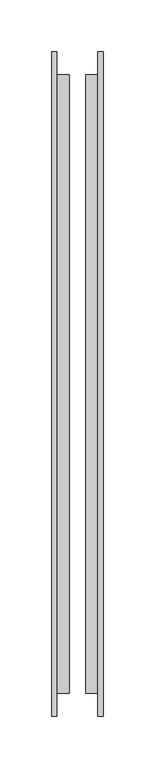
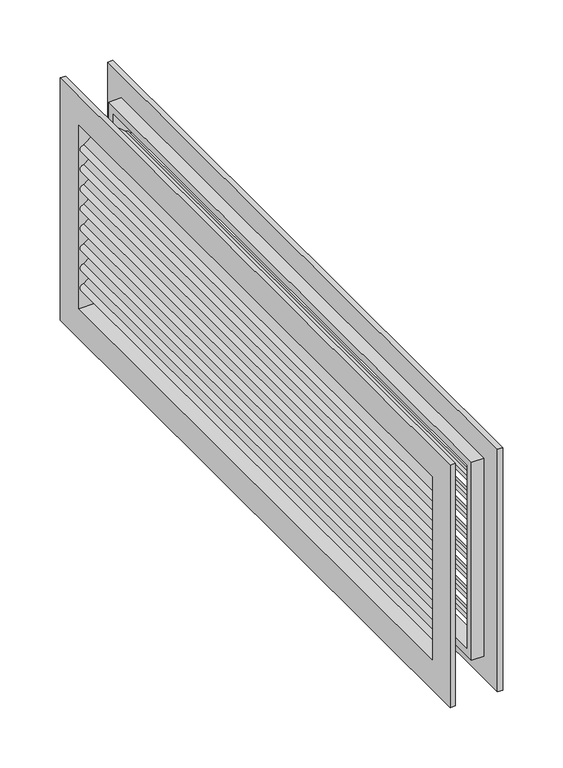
"""IFC4 building model written with IfcOpenShell, lengths in millimetres: air terminal geometry, BL_РешеткаПрямоугольная_Вытяжная_LVK : BL_РешеткаПрямоугольная_Вытяжная_LVK."""

from ifc_helpers import new_model, si_unit, point, frame, frame_2d, origin, place, context, project, spatial, polyline, circle_curve, trimmed, segment, composite_curve, outline, extrude, faceted_brep, source, transform, mapped, element, save


def air_terminal_31dd35a5(model_context):
    return source(origin(), model_context, "Body", "SolidModel", [
        extrude(outline(composite_curve([segment(polyline([(77.6351972, 8.214887), (67.6947461, 16.5054222)]), True, "CONTINUOUS"), segment(trimmed(circle_curve(frame_2d((67.5, 20.0)), 3.5), [point((67.6947461, 16.5054222))], [point((70.9945778, 19.8052539))], False, "CARTESIAN"), True, "CONTINUOUS"), segment(polyline([(70.9945778, 19.8052539), (79.285113, 9.8648028), (77.6351972, 8.214887)]), True, "CONTINUOUS")], self_intersect=False)), frame((0.0, -292.5, 0.0), z_axis=(0.0, 1.0, 0.0), x_axis=(0.0, 0.0, 1.0)), (0.0, 0.0, 1.0), 585.0),
        extrude(outline(composite_curve([segment(polyline([(57.6351972, 8.214887), (47.6947461, 16.5054222)]), True, "CONTINUOUS"), segment(trimmed(circle_curve(frame_2d((47.5, 20.0)), 3.5), [point((47.6947461, 16.5054222))], [point((50.9945778, 19.8052539))], False, "CARTESIAN"), True, "CONTINUOUS"), segment(polyline([(50.9945778, 19.8052539), (59.285113, 9.8648028), (57.6351972, 8.214887)]), True, "CONTINUOUS")], self_intersect=False)), frame((0.0, -292.5, 0.0), z_axis=(0.0, 1.0, 0.0), x_axis=(0.0, 0.0, 1.0)), (0.0, 0.0, 1.0), 585.0),
        extrude(outline(composite_curve([segment(polyline([(37.6351972, 8.214887), (27.6947461, 16.5054222)]), True, "CONTINUOUS"), segment(trimmed(circle_curve(frame_2d((27.5, 20.0)), 3.5), [point((27.6947461, 16.5054222))], [point((30.9945778, 19.8052539))], False, "CARTESIAN"), True, "CONTINUOUS"), segment(polyline([(30.9945778, 19.8052539), (39.285113, 9.8648028), (37.6351972, 8.214887)]), True, "CONTINUOUS")], self_intersect=False)), frame((0.0, -292.5, 0.0), z_axis=(0.0, 1.0, 0.0), x_axis=(0.0, 0.0, 1.0)), (0.0, 0.0, 1.0), 585.0),
        extrude(outline(composite_curve([segment(polyline([(17.6351972, 8.214887), (7.6947461, 16.5054222)]), True, "CONTINUOUS"), segment(trimmed(circle_curve(frame_2d((7.5, 20.0)), 3.5), [point((7.6947461, 16.5054222))], [point((10.9945778, 19.8052539))], False, "CARTESIAN"), True, "CONTINUOUS"), segment(polyline([(10.9945778, 19.8052539), (19.285113, 9.8648028), (17.6351972, 8.214887)]), True, "CONTINUOUS")], self_intersect=False)), frame((0.0, -292.5, 0.0), z_axis=(0.0, 1.0, 0.0), x_axis=(0.0, 0.0, 1.0)), (0.0, 0.0, 1.0), 585.0),
        extrude(outline(composite_curve([segment(polyline([(-2.3648028, 8.214887), (-12.3052539, 16.5054222)]), True, "CONTINUOUS"), segment(trimmed(circle_curve(frame_2d((-12.5, 20.0)), 3.5), [point((-12.3052539, 16.5054222))], [point((-9.0054222, 19.8052539))], False, "CARTESIAN"), True, "CONTINUOUS"), segment(polyline([(-9.0054222, 19.8052539), (-0.714887, 9.8648028), (-2.3648028, 8.214887)]), True, "CONTINUOUS")], self_intersect=False)), frame((0.0, -292.5, 0.0), z_axis=(0.0, 1.0, 0.0), x_axis=(0.0, 0.0, 1.0)), (0.0, 0.0, 1.0), 585.0),
        extrude(outline(composite_curve([segment(polyline([(-22.3648028, 8.214887), (-32.3052539, 16.5054222)]), True, "CONTINUOUS"), segment(trimmed(circle_curve(frame_2d((-32.5, 20.0)), 3.5), [point((-32.3052539, 16.5054222))], [point((-29.0054222, 19.8052539))], False, "CARTESIAN"), True, "CONTINUOUS"), segment(polyline([(-29.0054222, 19.8052539), (-20.714887, 9.8648028), (-22.3648028, 8.214887)]), True, "CONTINUOUS")], self_intersect=False)), frame((0.0, -292.5, 0.0), z_axis=(0.0, 1.0, 0.0), x_axis=(0.0, 0.0, 1.0)), (0.0, 0.0, 1.0), 585.0),
        extrude(outline(composite_curve([segment(polyline([(77.6351972, -8.214887), (79.285113, -9.8648028), (70.9945778, -19.8052539)]), True, "CONTINUOUS"), segment(trimmed(circle_curve(frame_2d((67.5, -20.0)), 3.5), [point((70.9945778, -19.8052539))], [point((67.6947461, -16.5054222))], False, "CARTESIAN"), True, "CONTINUOUS"), segment(polyline([(67.6947461, -16.5054222), (77.6351972, -8.214887)]), True, "CONTINUOUS")], self_intersect=False)), frame((0.0, -292.5, 0.0), z_axis=(0.0, 1.0, 0.0), x_axis=(0.0, 0.0, 1.0)), (0.0, 0.0, 1.0), 585.0),
        extrude(outline(composite_curve([segment(polyline([(57.6351972, -8.214887), (59.285113, -9.8648028), (50.9945778, -19.8052539)]), True, "CONTINUOUS"), segment(trimmed(circle_curve(frame_2d((47.5, -20.0)), 3.5), [point((50.9945778, -19.8052539))], [point((47.6947461, -16.5054222))], False, "CARTESIAN"), True, "CONTINUOUS"), segment(polyline([(47.6947461, -16.5054222), (57.6351972, -8.214887)]), True, "CONTINUOUS")], self_intersect=False)), frame((0.0, -292.5, 0.0), z_axis=(0.0, 1.0, 0.0), x_axis=(0.0, 0.0, 1.0)), (0.0, 0.0, 1.0), 585.0),
        extrude(outline(composite_curve([segment(polyline([(37.6351972, -8.214887), (39.285113, -9.8648028), (30.9945778, -19.8052539)]), True, "CONTINUOUS"), segment(trimmed(circle_curve(frame_2d((27.5, -20.0)), 3.5), [point((30.9945778, -19.8052539))], [point((27.6947461, -16.5054222))], False, "CARTESIAN"), True, "CONTINUOUS"), segment(polyline([(27.6947461, -16.5054222), (37.6351972, -8.214887)]), True, "CONTINUOUS")], self_intersect=False)), frame((0.0, -292.5, 0.0), z_axis=(0.0, 1.0, 0.0), x_axis=(0.0, 0.0, 1.0)), (0.0, 0.0, 1.0), 585.0),
        extrude(outline(composite_curve([segment(polyline([(17.6351972, -8.214887), (19.285113, -9.8648028), (10.9945778, -19.8052539)]), True, "CONTINUOUS"), segment(trimmed(circle_curve(frame_2d((7.5, -20.0)), 3.5), [point((10.9945778, -19.8052539))], [point((7.6947461, -16.5054222))], False, "CARTESIAN"), True, "CONTINUOUS"), segment(polyline([(7.6947461, -16.5054222), (17.6351972, -8.214887)]), True, "CONTINUOUS")], self_intersect=False)), frame((0.0, -292.5, 0.0), z_axis=(0.0, 1.0, 0.0), x_axis=(0.0, 0.0, 1.0)), (0.0, 0.0, 1.0), 585.0),
        extrude(outline(composite_curve([segment(polyline([(-2.3648028, -8.214887), (-0.714887, -9.8648028), (-9.0054222, -19.8052539)]), True, "CONTINUOUS"), segment(trimmed(circle_curve(frame_2d((-12.5, -20.0)), 3.5), [point((-9.0054222, -19.8052539))], [point((-12.3052539, -16.5054222))], False, "CARTESIAN"), True, "CONTINUOUS"), segment(polyline([(-12.3052539, -16.5054222), (-2.3648028, -8.214887)]), True, "CONTINUOUS")], self_intersect=False)), frame((0.0, -292.5, 0.0), z_axis=(0.0, 1.0, 0.0), x_axis=(0.0, 0.0, 1.0)), (0.0, 0.0, 1.0), 585.0),
        extrude(outline(composite_curve([segment(polyline([(-22.3648028, -8.214887), (-20.714887, -9.8648028), (-29.0054222, -19.8052539)]), True, "CONTINUOUS"), segment(trimmed(circle_curve(frame_2d((-32.5, -20.0)), 3.5), [point((-29.0054222, -19.8052539))], [point((-32.3052539, -16.5054222))], False, "CARTESIAN"), True, "CONTINUOUS"), segment(polyline([(-32.3052539, -16.5054222), (-22.3648028, -8.214887)]), True, "CONTINUOUS")], self_intersect=False)), frame((0.0, -292.5, 0.0), z_axis=(0.0, 1.0, 0.0), x_axis=(0.0, 0.0, 1.0)), (0.0, 0.0, 1.0), 585.0),
        extrude(outline(composite_curve([segment(polyline([(-42.3648028, -8.214887), (-40.714887, -9.8648028), (-49.0054222, -19.8052539)]), True, "CONTINUOUS"), segment(trimmed(circle_curve(frame_2d((-52.5, -20.0)), 3.5), [point((-49.0054222, -19.8052539))], [point((-52.3052539, -16.5054222))], False, "CARTESIAN"), True, "CONTINUOUS"), segment(polyline([(-52.3052539, -16.5054222), (-42.3648028, -8.214887)]), True, "CONTINUOUS")], self_intersect=False)), frame((0.0, -292.5, 0.0), z_axis=(0.0, 1.0, 0.0), x_axis=(0.0, 0.0, 1.0)), (0.0, 0.0, 1.0), 585.0),
        extrude(outline(composite_curve([segment(polyline([(-42.3648028, 8.214887), (-52.3052539, 16.5054222)]), True, "CONTINUOUS"), segment(trimmed(circle_curve(frame_2d((-52.5, 20.0)), 3.5), [point((-52.3052539, 16.5054222))], [point((-49.0054222, 19.8052539))], False, "CARTESIAN"), True, "CONTINUOUS"), segment(polyline([(-49.0054222, 19.8052539), (-40.714887, 9.8648028), (-42.3648028, 8.214887)]), True, "CONTINUOUS")], self_intersect=False)), frame((0.0, -292.5, 0.0), z_axis=(0.0, 1.0, 0.0), x_axis=(0.0, 0.0, 1.0)), (0.0, 0.0, 1.0), 585.0),
        extrude(outline(composite_curve([segment(polyline([(-62.3648028, -8.214887), (-60.714887, -9.8648028), (-69.0054222, -19.8052539)]), True, "CONTINUOUS"), segment(trimmed(circle_curve(frame_2d((-72.5, -20.0)), 3.5), [point((-69.0054222, -19.8052539))], [point((-72.3052539, -16.5054222))], False, "CARTESIAN"), True, "CONTINUOUS"), segment(polyline([(-72.3052539, -16.5054222), (-62.3648028, -8.214887)]), True, "CONTINUOUS")], self_intersect=False)), frame((0.0, -292.5, 0.0), z_axis=(0.0, 1.0, 0.0), x_axis=(0.0, 0.0, 1.0)), (0.0, 0.0, 1.0), 585.0),
        extrude(outline(composite_curve([segment(polyline([(-62.3648028, 8.214887), (-72.3052539, 16.5054222)]), True, "CONTINUOUS"), segment(trimmed(circle_curve(frame_2d((-72.5, 20.0)), 3.5), [point((-72.3052539, 16.5054222))], [point((-69.0054222, 19.8052539))], False, "CARTESIAN"), True, "CONTINUOUS"), segment(polyline([(-69.0054222, 19.8052539), (-60.714887, 9.8648028), (-62.3648028, 8.214887)]), True, "CONTINUOUS")], self_intersect=False)), frame((0.0, -292.5, 0.0), z_axis=(0.0, 1.0, 0.0), x_axis=(0.0, 0.0, 1.0)), (0.0, 0.0, 1.0), 585.0),
        faceted_brep([(25.0, -322.5, 122.5), (25.0, -322.5, -122.5), (25.0, 322.5, -122.5), (25.0, 322.5, 122.5), (25.0, -292.5, 92.5), (25.0, 292.5, 92.5), (25.0, 292.5, -92.5), (25.0, -292.5, -92.5), (20.0, -322.5, 122.5), (20.0, -322.5, -122.5), (20.0, 322.5, -122.5), (20.0, 322.5, 122.5), (20.0, -300.0, 100.0), (20.0, -300.0, -100.0), (20.0, 300.0, -100.0), (20.0, 300.0, 100.0), (8.0, 300.0, 100.0), (8.0, -300.0, 100.0), (8.0, 300.0, -100.0), (8.0, -300.0, -100.0), (8.0, -292.5, 92.5), (8.0, 292.5, 92.5), (8.0, 292.5, -92.5), (8.0, -292.5, -92.5)], [[[0, 1, 2, 3], [4, 5, 6, 7]], [[1, 0, 8, 9]], [[2, 1, 9, 10]], [[3, 2, 10, 11]], [[0, 3, 11, 8]], [[9, 8, 11, 10], [12, 13, 14, 15]], [[12, 15, 16, 17]], [[15, 14, 18, 16]], [[14, 13, 19, 18]], [[13, 12, 17, 19]], [[5, 4, 20, 21]], [[6, 5, 21, 22]], [[7, 6, 22, 23]], [[4, 7, 23, 20]], [[17, 16, 18, 19], [21, 20, 23, 22]]]),
        faceted_brep([(-25.0, -322.5, 122.5), (-25.0, 322.5, 122.5), (-25.0, 322.5, -122.5), (-25.0, -322.5, -122.5), (-25.0, -292.5, 92.5), (-25.0, -292.5, -92.5), (-25.0, 292.5, -92.5), (-25.0, 292.5, 92.5), (-20.0, -322.5, -122.5), (-20.0, -322.5, 122.5), (-20.0, 322.5, -122.5), (-20.0, 322.5, 122.5), (-20.0, -300.0, 100.0), (-20.0, 300.0, 100.0), (-20.0, 300.0, -100.0), (-20.0, -300.0, -100.0), (-8.0, -300.0, 100.0), (-8.0, 300.0, 100.0), (-8.0, 300.0, -100.0), (-8.0, -300.0, -100.0), (-8.0, 292.5, 92.5), (-8.0, -292.5, 92.5), (-8.0, 292.5, -92.5), (-8.0, -292.5, -92.5)], [[[0, 1, 2, 3], [4, 5, 6, 7]], [[0, 3, 8, 9]], [[3, 2, 10, 8]], [[2, 1, 11, 10]], [[1, 0, 9, 11]], [[9, 8, 10, 11], [12, 13, 14, 15]], [[13, 12, 16, 17]], [[14, 13, 17, 18]], [[15, 14, 18, 19]], [[12, 15, 19, 16]], [[4, 7, 20, 21]], [[7, 6, 22, 20]], [[6, 5, 23, 22]], [[5, 4, 21, 23]], [[17, 16, 19, 18], [21, 20, 22, 23]]]),
    ])


if __name__ == "__main__":
    model = new_model("IFC4")
    model_context = context("Model", 3, world=origin())
    ifc_project = project(units=[si_unit("LENGTHUNIT", "METRE", prefix="MILLI")], contexts=[model_context])
    site = spatial("IfcSite", under=ifc_project)
    building = spatial("IfcBuilding", under=site)
    placement = place(None, origin())
    air_terminal_shape = air_terminal_31dd35a5(model_context)
    element("IfcAirTerminal", 1, ObjectType="BL_РешеткаПрямоугольная_Вытяжная_LVK : BL_РешеткаПрямоугольная_Вытяжная_LVK", at=placement, inside=building, context=model_context, shape_type="MappedRepresentation", body=[
        mapped(air_terminal_shape, transform((0.0, 0.0, 0.0), x_axis=(1.0, 0.0, 0.0), y_axis=(0.0, 1.0, 0.0), z_axis=(0.0, 0.0, 1.0))),
    ])
    save(model, "model.ifc")
